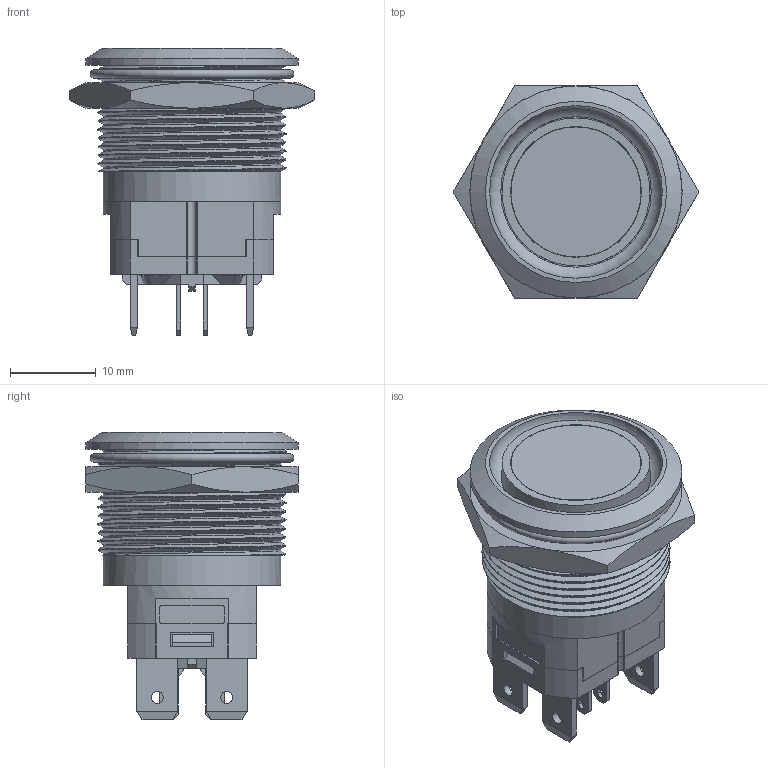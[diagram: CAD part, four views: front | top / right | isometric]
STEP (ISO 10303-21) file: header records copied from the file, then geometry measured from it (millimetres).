
FILE_DESCRIPTION(/* description */ (''),/* implementation_level */ '2;1');
FILE_NAME(/* name */ 'J22-C.stp',/* time_stamp */ '2019-11-08T13:23:15+08:00',/* author */ (''),/* organization */ (''),/* preprocessor_version */ 'ST-DEVELOPER v16.7',/* originating_system */ 'SIEMENS PLM Software NX 12.0',/* authorisation */ '');
FILE_SCHEMA (('AUTOMOTIVE_DESIGN { 1 0 10303 214 3 1 1 1 }'));
Length unit declared in the file: millimetre
Products named in the file (1): Admi6AF438ABmjve
Bounding box: 28.7 x 24.85 x 33.6 mm (x, y, z)
Volume: 5004.7 mm3; surface area: 10721.7 mm2
Topology: 15 solids, 15 shells, 1015 faces, 3046 edges, 1990 vertices
Faces by surface type: plane 678, cylinder 202, sphere 90, extrusion 26, cone 13, bspline 4, torus 2
Full cylindrical faces by diameter (mm): 0.2 x4, 1.4 x4, 1.5 x4, 11.442 x1, 13 x1, 13.2 x1, 15.2 x1, 15.3 x1, 17.3 x1, 17.6 x1, 19.8 x1, 20.2 x1, 20.8 x13, 24.8 x1
Entity records: 43063 total; most frequent: CARTESIAN_POINT 12913, ORIENTED_EDGE 5586, DIRECTION 5091, EDGE_CURVE 2793, VECTOR 2129, LINE 2103, VERTEX_POINT 1867, AXIS2_PLACEMENT_3D 1481
